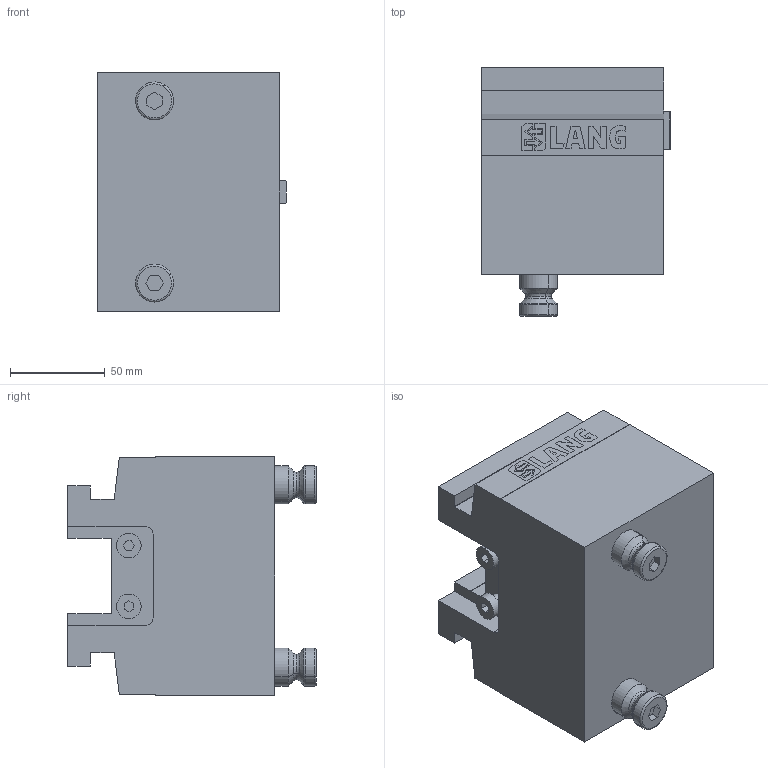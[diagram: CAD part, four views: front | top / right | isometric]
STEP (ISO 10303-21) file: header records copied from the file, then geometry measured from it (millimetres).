
FILE_DESCRIPTION (( 'STEP AP214' ), '1' );
FILE_NAME ('81012.STEP', '2020-10-28T06:18:15', ( '' ), ( '' ), 'SwSTEP 2.0', 'SolidWorks 2019', '' );
FILE_SCHEMA (( 'AUTOMOTIVE_DESIGN' ));
Length unit declared in the file: millimetre
Products named in the file (1): 81012
Bounding box: 99.49 x 131 x 125.6 mm (x, y, z)
Volume: 1126426.7 mm3; surface area: 85127.8 mm2
Topology: 7 solids, 7 shells, 415 faces, 1055 edges, 681 vertices
Faces by surface type: plane 282, cylinder 40, bspline 40, cone 33, torus 20
Entity records: 17375 total; most frequent: CARTESIAN_POINT 2865, ORIENTED_EDGE 2098, DIRECTION 1883, EDGE_CURVE 1049, VECTOR 809, LINE 809, VERTEX_POINT 681, AXIS2_PLACEMENT_3D 537
